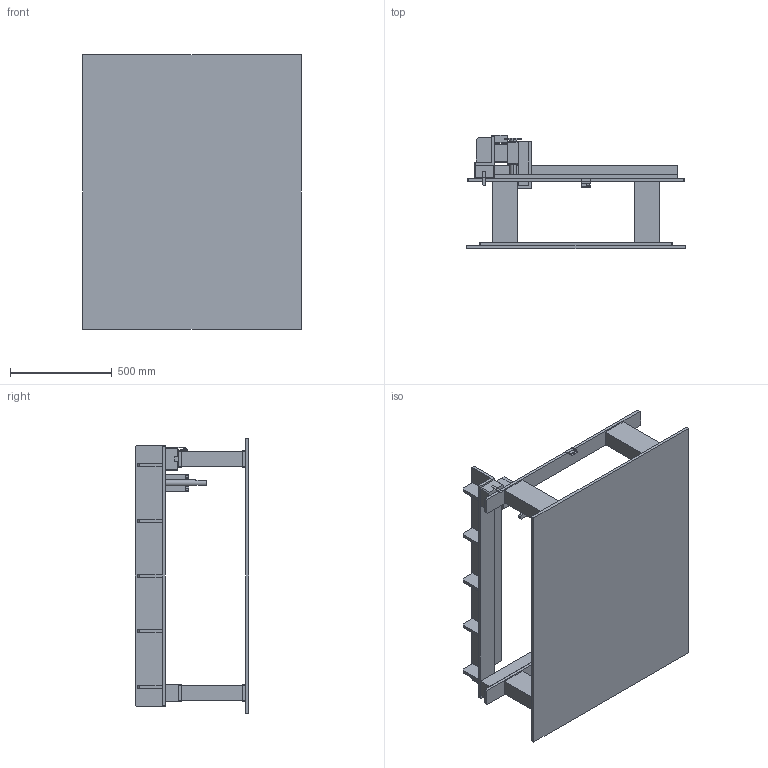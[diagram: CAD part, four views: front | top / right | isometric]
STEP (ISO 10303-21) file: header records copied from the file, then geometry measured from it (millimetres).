
FILE_DESCRIPTION( (''), '2;1');
FILE_NAME ('Demo_XYZTable2.stp','2021-12-09T11:41:06',(''),(''),'spGate 15.6.6','','');
FILE_SCHEMA (('AUTOMOTIVE_DESIGN'));
Length unit declared in the file: millimetre
Products named in the file (17): Assembly; Demo_XYZTable2-prt0; Demo_XYZTable2-prt1; Demo_XYZTable2-prt2; Demo_XYZTable2-prt3; Demo_XYZTable2-prt4; Demo_XYZTable2-prt5; Demo_XYZTable2-prt6; Demo_XYZTable2-prt7; Demo_XYZTable2-prt8; Demo_XYZTable2-prt9; Demo_XYZTable2-prt10; Demo_XYZTable2-prt11; Demo_XYZTable2-prt12; Demo_XYZTable2-prt13; Demo_XYZTable2-prt14; Demo_XYZTable2-prt15
Assembly tree (16 placements, depth 2):
  Assembly
    Demo_XYZTable2-prt0
    Demo_XYZTable2-prt1
    Demo_XYZTable2-prt2
    Demo_XYZTable2-prt3
    Demo_XYZTable2-prt4
    Demo_XYZTable2-prt5
    Demo_XYZTable2-prt6
    Demo_XYZTable2-prt7
    Demo_XYZTable2-prt8
    Demo_XYZTable2-prt9
    Demo_XYZTable2-prt10
    Demo_XYZTable2-prt11
    Demo_XYZTable2-prt12
    Demo_XYZTable2-prt13
    Demo_XYZTable2-prt14
    Demo_XYZTable2-prt15
Bounding box: 1075 x 558 x 1350 mm (x, y, z)
Volume: 59718866.1 mm3; surface area: 6150817.9 mm2
Topology: 16 solids, 16 shells, 225 faces, 559 edges, 371 vertices
Faces by surface type: plane 216, cylinder 9
Entity records: 11645 total; most frequent: CARTESIAN_POINT 1197, ORIENTED_EDGE 1118, DIRECTION 1092, COLOUR_RGB 800, PRESENTATION_STYLE_ASSIGNMENT 800, STYLED_ITEM 800, EDGE_CURVE 559, DRAUGHTING_PRE_DEFINED_CURVE_FONT 559
